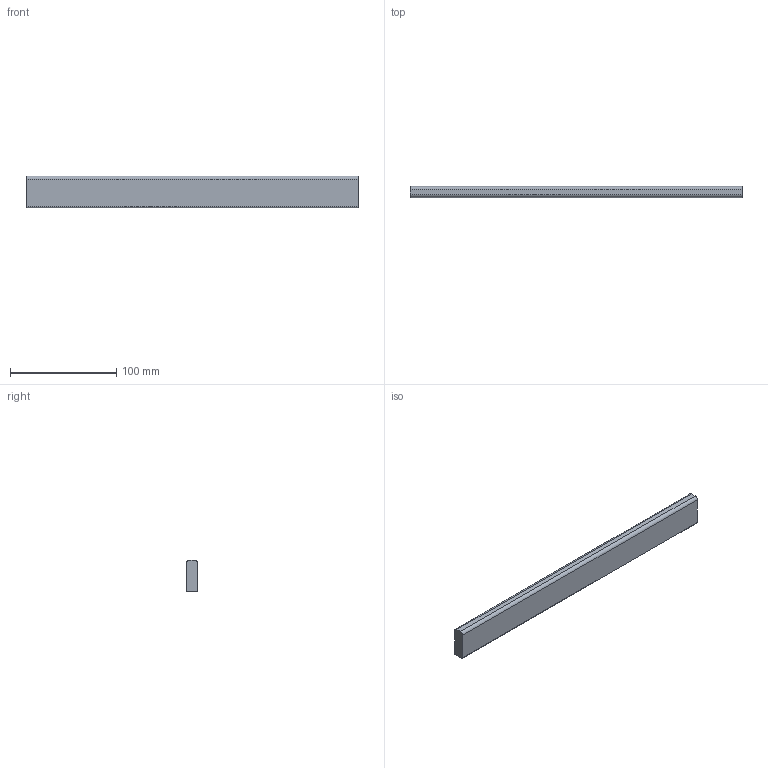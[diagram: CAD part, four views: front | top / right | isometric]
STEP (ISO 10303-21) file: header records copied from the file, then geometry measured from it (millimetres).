
FILE_DESCRIPTION (( 'STEP AP214' ), '1' );
FILE_NAME ('_Querreling_KAB-400_KS-16.step', '2010-08-26T14:58:59', ( 'grass' ), ( '' ), 'SwSTEP 2.0', 'SolidWorks 2009', '' );
FILE_SCHEMA (( 'AUTOMOTIVE_DESIGN' ));
Length unit declared in the file: millimetre
Products named in the file (1): _Querreling_KAB-400_KS-16
Bounding box: 312.5 x 10.5 x 30 mm (x, y, z)
Volume: 97096.2 mm3; surface area: 24860.9 mm2
Topology: 1 solids, 1 shells, 10 faces, 24 edges, 16 vertices
Faces by surface type: plane 6, cylinder 4
Entity records: 330 total; most frequent: DIRECTION 54, CARTESIAN_POINT 51, ORIENTED_EDGE 48, EDGE_CURVE 24, AXIS2_PLACEMENT_3D 19, VECTOR 16, LINE 16, VERTEX_POINT 16
